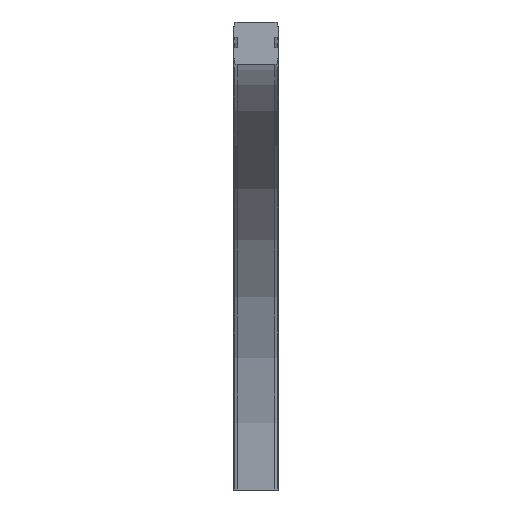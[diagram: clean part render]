
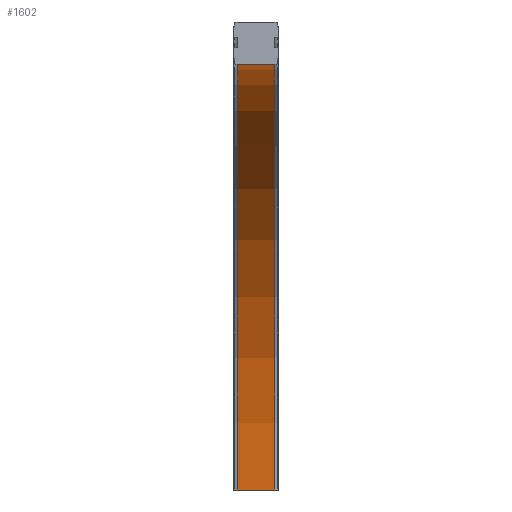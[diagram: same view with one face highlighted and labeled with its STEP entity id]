
A CAD part, left-side view. The second image highlights one B-rep face of the part: STEP entity #1602.
In plain terms, the highlighted cylindrical face has radius 818 mm (diameter 1636 mm), a partial arc.
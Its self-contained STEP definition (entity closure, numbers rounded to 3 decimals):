
#1561=CARTESIAN_POINT('',(0.,-18.25,-899.5));
#1562=DIRECTION('',(0.0,1.0,0.0));
#1563=DIRECTION('',(0.0,0.0,1.0));
#1564=AXIS2_PLACEMENT_3D('',#1561,#1562,#1563);
#1565=CYLINDRICAL_SURFACE('',#1564,818.);
#1566=CARTESIAN_POINT('',(818.,36.5,-899.5));
#1567=VERTEX_POINT('',#1566);
#1568=CARTESIAN_POINT('',(818.,-36.5,-899.5));
#1569=VERTEX_POINT('',#1568);
#1570=CARTESIAN_POINT('',(818.,36.5,-899.5));
#1571=DIRECTION('',(0.0,-1.0,0.0));
#1572=VECTOR('',#1571,73.0);
#1573=LINE('',#1570,#1572);
#1574=EDGE_CURVE('',#1567,#1569,#1573,.T.);
#1575=ORIENTED_EDGE('',*,*,#1574,.T.);
#1576=CARTESIAN_POINT('',(0.0,-36.5,-81.5));
#1577=VERTEX_POINT('',#1576);
#1578=CARTESIAN_POINT('',(0.,-36.5,-899.5));
#1579=DIRECTION('',(0.0,1.0,0.0));
#1580=DIRECTION('',(0.0,0.0,1.0));
#1581=AXIS2_PLACEMENT_3D('',#1578,#1579,#1580);
#1582=CIRCLE('',#1581,818.);
#1583=EDGE_CURVE('',#1577,#1569,#1582,.T.);
#1584=ORIENTED_EDGE('',*,*,#1583,.F.);
#1585=CARTESIAN_POINT('',(0.0,36.5,-81.5));
#1586=VERTEX_POINT('',#1585);
#1587=CARTESIAN_POINT('',(0.0,-36.5,-81.5));
#1588=DIRECTION('',(0.0,1.0,0.0));
#1589=VECTOR('',#1588,73.0);
#1590=LINE('',#1587,#1589);
#1591=EDGE_CURVE('',#1577,#1586,#1590,.T.);
#1592=ORIENTED_EDGE('',*,*,#1591,.T.);
#1593=CARTESIAN_POINT('',(0.,36.5,-899.5));
#1594=DIRECTION('',(0.0,1.0,0.0));
#1595=DIRECTION('',(0.0,0.0,1.0));
#1596=AXIS2_PLACEMENT_3D('',#1593,#1594,#1595);
#1597=CIRCLE('',#1596,818.);
#1598=EDGE_CURVE('',#1586,#1567,#1597,.T.);
#1599=ORIENTED_EDGE('',*,*,#1598,.T.);
#1600=EDGE_LOOP('',(#1575,#1584,#1592,#1599));
#1601=FACE_OUTER_BOUND('',#1600,.T.);
#1602=ADVANCED_FACE('',(#1601),#1565,.F.);
